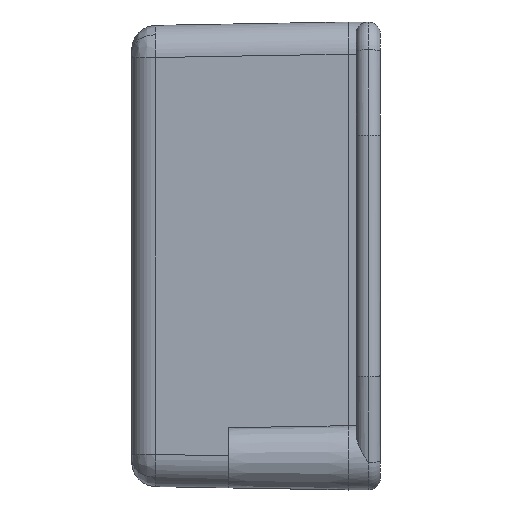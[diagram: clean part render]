
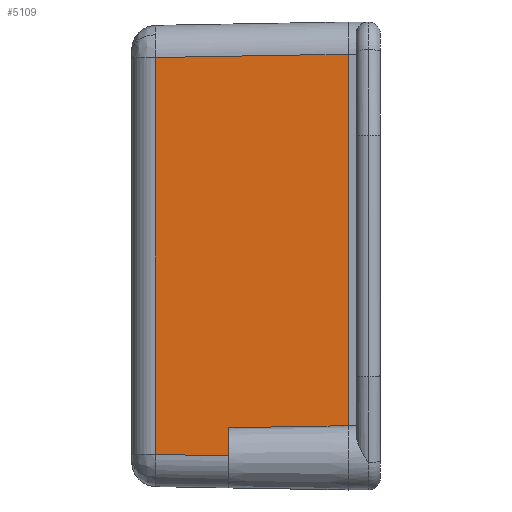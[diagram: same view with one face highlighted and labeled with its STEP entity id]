
A CAD part, left-side view. The second image highlights one B-rep face of the part: STEP entity #5109.
In plain terms, the highlighted planar face has unit normal (-1, 0.018, 0).
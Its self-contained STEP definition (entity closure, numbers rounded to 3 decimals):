
#122 = DIRECTION ( 'NONE',  ( -0.017, -1., 0.017 ) ) ;
#400 = CARTESIAN_POINT ( 'NONE',  ( -43.95, 0., -21.1 ) ) ;
#652 = CARTESIAN_POINT ( 'NONE',  ( -43.691, 14.85, -24.841 ) ) ;
#881 = VECTOR ( 'NONE', #122, 1000. ) ;
#1233 = VERTEX_POINT ( 'NONE', #2965 ) ;
#1252 = VERTEX_POINT ( 'NONE', #5275 ) ;
#1421 = CARTESIAN_POINT ( 'NONE',  ( -43.532, 23.952, -24.631 ) ) ;
#1680 = CARTESIAN_POINT ( 'NONE',  ( -43.691, 14.85, -29.1 ) ) ;
#1706 = CARTESIAN_POINT ( 'NONE',  ( -43.532, 23.952, -24.683 ) ) ;
#1993 = VECTOR ( 'NONE', #5487, 1000. ) ;
#2196 = ORIENTED_EDGE ( 'NONE', *, *, #5345, .T. ) ;
#2475 = PLANE ( 'NONE',  #4004 ) ;
#2610 = VERTEX_POINT ( 'NONE', #400 ) ;
#2677 = EDGE_LOOP ( 'NONE', ( #6069, #4854, #2196, #3776, #4105, #6489 ) ) ;
#2783 = DIRECTION ( 'NONE',  ( 0.017, 1., -0.017 ) ) ;
#2856 = VECTOR ( 'NONE', #5759, 1000. ) ;
#2965 = CARTESIAN_POINT ( 'NONE',  ( -43.532, 23.952, 24.683 ) ) ;
#2969 = VECTOR ( 'NONE', #3477, 1000. ) ;
#3021 = EDGE_CURVE ( 'NONE', #1252, #1233, #4619, .T. ) ;
#3067 = DIRECTION ( 'NONE',  ( -0.017, -1., 0. ) ) ;
#3477 = DIRECTION ( 'NONE',  ( 0., 0., 1. ) ) ;
#3489 = CARTESIAN_POINT ( 'NONE',  ( -43.691, 14.85, -21.359 ) ) ;
#3573 = CARTESIAN_POINT ( 'NONE',  ( -43.951, -0.062, -21.099 ) ) ;
#3685 = CARTESIAN_POINT ( 'NONE',  ( -43.933, 0.945, 25.084 ) ) ;
#3767 = LINE ( 'NONE', #3573, #881 ) ;
#3776 = ORIENTED_EDGE ( 'NONE', *, *, #4906, .T. ) ;
#3840 = DIRECTION ( 'NONE',  ( -0.017, -1., -0.017 ) ) ;
#4004 = AXIS2_PLACEMENT_3D ( 'NONE', #6548, #6569, #3067 ) ;
#4105 = ORIENTED_EDGE ( 'NONE', *, *, #4245, .T. ) ;
#4139 = EDGE_CURVE ( 'NONE', #2610, #1252, #7493, .T. ) ;
#4245 = EDGE_CURVE ( 'NONE', #6078, #2610, #3767, .T. ) ;
#4388 = LINE ( 'NONE', #1680, #2856 ) ;
#4466 = VERTEX_POINT ( 'NONE', #652 ) ;
#4482 = FACE_OUTER_BOUND ( 'NONE', #2677, .T. ) ;
#4573 = VECTOR ( 'NONE', #3840, 1000. ) ;
#4619 = LINE ( 'NONE', #3685, #5286 ) ;
#4854 = ORIENTED_EDGE ( 'NONE', *, *, #6802, .T. ) ;
#4906 = EDGE_CURVE ( 'NONE', #4466, #6078, #4388, .T. ) ;
#4908 = LINE ( 'NONE', #1421, #1993 ) ;
#4953 = VERTEX_POINT ( 'NONE', #1706 ) ;
#4987 = CARTESIAN_POINT ( 'NONE',  ( -43.951, -0.07, -25.102 ) ) ;
#5109 = ADVANCED_FACE ( 'NONE', ( #4482 ), #2475, .T. ) ;
#5275 = CARTESIAN_POINT ( 'NONE',  ( -43.95, 0., 25.101 ) ) ;
#5286 = VECTOR ( 'NONE', #2783, 1000. ) ;
#5345 = EDGE_CURVE ( 'NONE', #4953, #4466, #6147, .T. ) ;
#5487 = DIRECTION ( 'NONE',  ( 0., 0., -1. ) ) ;
#5759 = DIRECTION ( 'NONE',  ( 0., 0., 1. ) ) ;
#6069 = ORIENTED_EDGE ( 'NONE', *, *, #3021, .T. ) ;
#6078 = VERTEX_POINT ( 'NONE', #3489 ) ;
#6147 = LINE ( 'NONE', #4987, #4573 ) ;
#6489 = ORIENTED_EDGE ( 'NONE', *, *, #4139, .T. ) ;
#6548 = CARTESIAN_POINT ( 'NONE',  ( -43.95, 0., -29.1 ) ) ;
#6569 = DIRECTION ( 'NONE',  ( -1., 0.017, 0. ) ) ;
#6802 = EDGE_CURVE ( 'NONE', #1233, #4953, #4908, .T. ) ;
#6990 = CARTESIAN_POINT ( 'NONE',  ( -43.95, 0., -29.1 ) ) ;
#7493 = LINE ( 'NONE', #6990, #2969 ) ;
